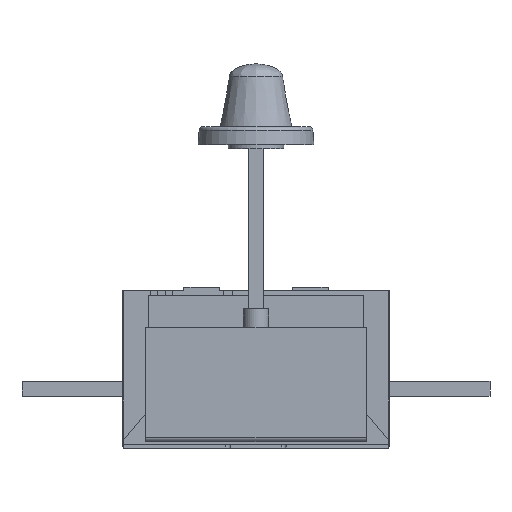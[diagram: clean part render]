
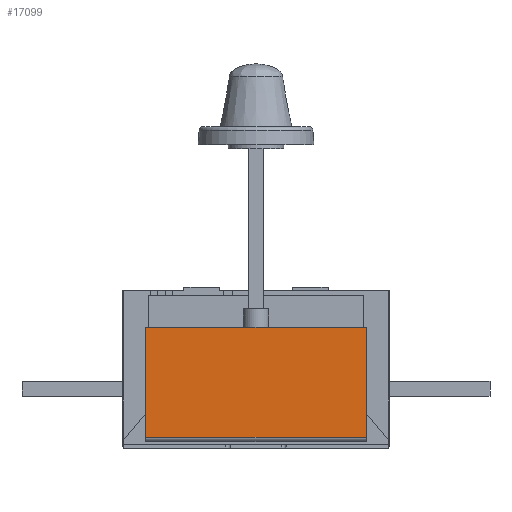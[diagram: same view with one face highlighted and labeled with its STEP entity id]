
A CAD part, left-side view. The second image highlights one B-rep face of the part: STEP entity #17099.
In plain terms, the highlighted planar face has unit normal (-1, 0, 0).
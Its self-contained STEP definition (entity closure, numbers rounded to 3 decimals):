
#856 = VECTOR ( 'NONE', #15071, 1000. ) ;
#893 = LINE ( 'NONE', #6995, #9736 ) ;
#1882 = VECTOR ( 'NONE', #18875, 1000. ) ;
#2050 = DIRECTION ( 'NONE',  ( 0., 1., 0. ) ) ;
#2372 = CARTESIAN_POINT ( 'NONE',  ( -172.679, -87.5, 8.599 ) ) ;
#3476 = ORIENTED_EDGE ( 'NONE', *, *, #14079, .F. ) ;
#4414 = EDGE_CURVE ( 'NONE', #18563, #12733, #5102, .T. ) ;
#4636 = EDGE_CURVE ( 'NONE', #12733, #18729, #893, .T. ) ;
#5102 = LINE ( 'NONE', #11357, #1882 ) ;
#5557 = LINE ( 'NONE', #18387, #856 ) ;
#6204 = ORIENTED_EDGE ( 'NONE', *, *, #4636, .T. ) ;
#6905 = VERTEX_POINT ( 'NONE', #16903 ) ;
#6995 = CARTESIAN_POINT ( 'NONE',  ( -172.679, -87.5, 96.099 ) ) ;
#7071 = DIRECTION ( 'NONE',  ( 0., 1., 0. ) ) ;
#8871 = LINE ( 'NONE', #12781, #20014 ) ;
#8946 = PLANE ( 'NONE',  #9057 ) ;
#9057 = AXIS2_PLACEMENT_3D ( 'NONE', #18090, #18152, #18286 ) ;
#9736 = VECTOR ( 'NONE', #7071, 1000. ) ;
#10217 = ORIENTED_EDGE ( 'NONE', *, *, #4414, .T. ) ;
#11357 = CARTESIAN_POINT ( 'NONE',  ( -172.679, -87.5, 0. ) ) ;
#11691 = FACE_OUTER_BOUND ( 'NONE', #15259, .T. ) ;
#11752 = EDGE_CURVE ( 'NONE', #6905, #18729, #5557, .T. ) ;
#12641 = CARTESIAN_POINT ( 'NONE',  ( -172.679, -87.5, 96.099 ) ) ;
#12733 = VERTEX_POINT ( 'NONE', #12641 ) ;
#12781 = CARTESIAN_POINT ( 'NONE',  ( -172.679, -87.5, 8.599 ) ) ;
#14079 = EDGE_CURVE ( 'NONE', #18563, #6905, #8871, .T. ) ;
#15071 = DIRECTION ( 'NONE',  ( 0., 0., 1. ) ) ;
#15259 = EDGE_LOOP ( 'NONE', ( #6204, #16828, #3476, #10217 ) ) ;
#16828 = ORIENTED_EDGE ( 'NONE', *, *, #11752, .F. ) ;
#16903 = CARTESIAN_POINT ( 'NONE',  ( -172.679, 87.5, 8.599 ) ) ;
#17099 = ADVANCED_FACE ( 'NONE', ( #11691 ), #8946, .T. ) ;
#18090 = CARTESIAN_POINT ( 'NONE',  ( -172.679, -87.5, 0. ) ) ;
#18152 = DIRECTION ( 'NONE',  ( -1., 0., 0. ) ) ;
#18286 = DIRECTION ( 'NONE',  ( 0., 0., 1. ) ) ;
#18387 = CARTESIAN_POINT ( 'NONE',  ( -172.679, 87.5, 0. ) ) ;
#18563 = VERTEX_POINT ( 'NONE', #2372 ) ;
#18729 = VERTEX_POINT ( 'NONE', #19724 ) ;
#18875 = DIRECTION ( 'NONE',  ( 0., 0., 1. ) ) ;
#19724 = CARTESIAN_POINT ( 'NONE',  ( -172.679, 87.5, 96.099 ) ) ;
#20014 = VECTOR ( 'NONE', #2050, 1000. ) ;
